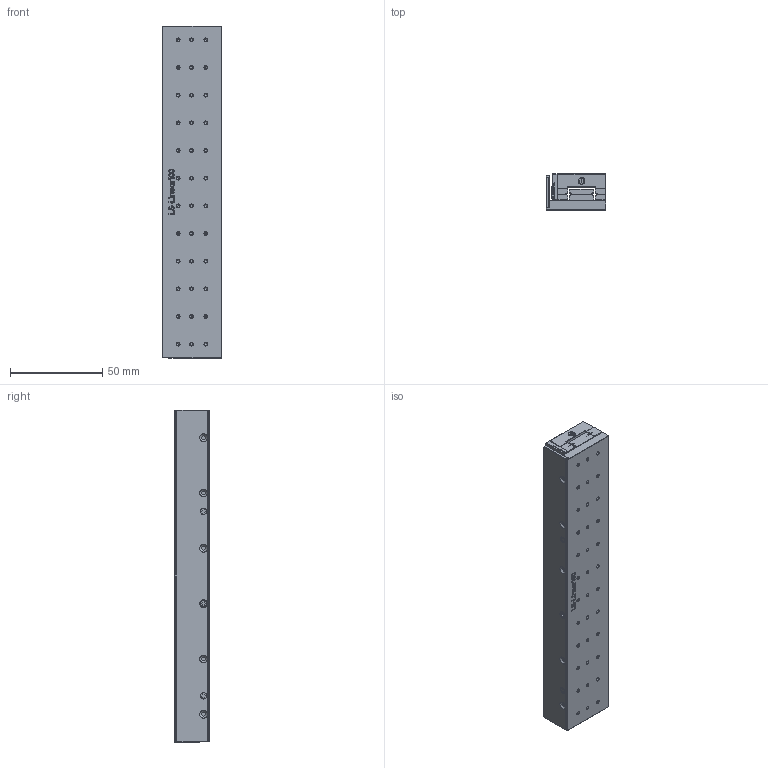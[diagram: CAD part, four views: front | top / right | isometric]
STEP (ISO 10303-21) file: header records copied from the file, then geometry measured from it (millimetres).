
FILE_DESCRIPTION (( 'STEP AP203' ), '1' );
FILE_NAME ('LS-Linear100.STEP', '2024-04-19T07:55:36', ( '' ), ( '' ), 'SwSTEP 2.0', 'SolidWorks 2020', '' );
FILE_SCHEMA (( 'CONFIG_CONTROL_DESIGN' ));
Products named in the file (1): LS-Linear100
Bounding box: 32 x 19.5 x 180 mm (x, y, z)
Volume: 96955.8 mm3; surface area: 65090.1 mm2
Topology: 13 solids, 13 shells, 2320 faces, 6114 edges, 3904 vertices
Faces by surface type: bspline 931, plane 731, cylinder 372, cone 286
Entity records: 82759 total; most frequent: CARTESIAN_POINT 31141, ORIENTED_EDGE 12088, DIRECTION 7918, EDGE_CURVE 6044, VERTEX_POINT 3904, VECTOR 3176, LINE 3176, EDGE_LOOP 2672
